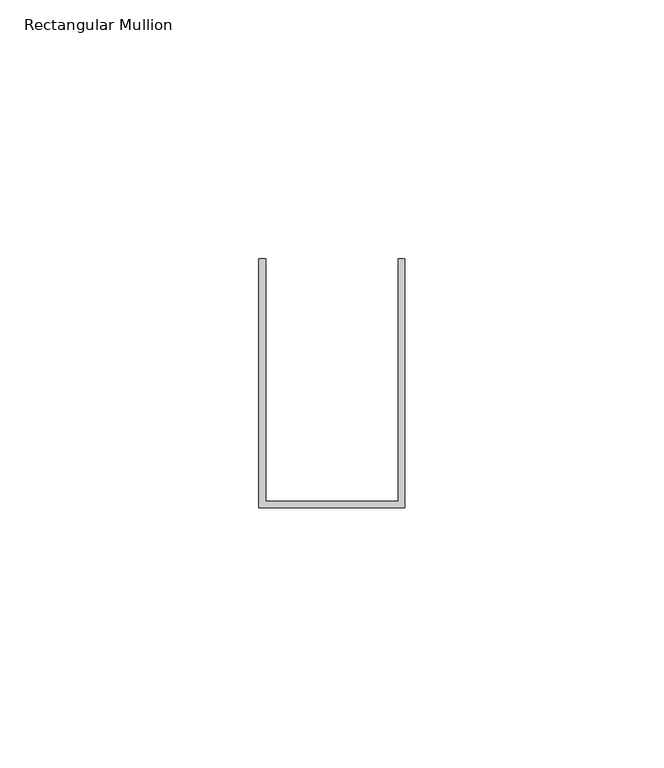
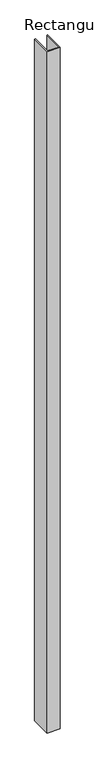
"""IFC4 building model written with IfcOpenShell, lengths in millimetres: member geometry, Rectangular Mullion : Danpal_NM_InetrnalV-Mullion."""

from ifc_helpers import new_model, si_unit, frame, origin, place, context, project, spatial, polyline, outline, extrude, source, transform, mapped, element, save


def rectangular_mullion_38807b77(model_context):
    return source(origin(), model_context, "Body", "SweptSolid", [
        extrude(outline(polyline([(12.3125928, -60.8367315), (12.3125928, -14.0044958), (13.6380334, -14.0044958), (13.6380334, -62.1621721), (-14.6380334, -62.1621721), (-14.6380334, -14.0043036), (-13.3125928, -14.0043433), (-13.3125928, -60.8367315), (12.3125928, -60.8367315)])), frame((0.0, 0.0, -1602.963783), z_axis=(0.0, 0.0, 1.0), x_axis=(1.0, 0.0, 0.0)), (0.0, 0.0, 1.0), 1602.963783),
    ])


if __name__ == "__main__":
    model = new_model("IFC4")
    model_context = context("Model", 3, world=origin())
    ifc_project = project(units=[si_unit("LENGTHUNIT", "METRE", prefix="MILLI")], contexts=[model_context])
    site = spatial("IfcSite", under=ifc_project)
    building = spatial("IfcBuilding", under=site)
    placement = place(None, origin())
    rectangular_mullion_shape = rectangular_mullion_38807b77(model_context)
    element("IfcMember", 1, ObjectType="Rectangular Mullion : Danpal_NM_InetrnalV-Mullion", at=placement, inside=building, context=model_context, shape_type="MappedRepresentation", body=[
        mapped(rectangular_mullion_shape, transform((0.0, 0.0, 0.0), x_axis=(1.0, 0.0, 0.0), y_axis=(0.0, 1.0, 0.0), z_axis=(0.0, 0.0, 1.0))),
    ])
    save(model, "model.ifc")
